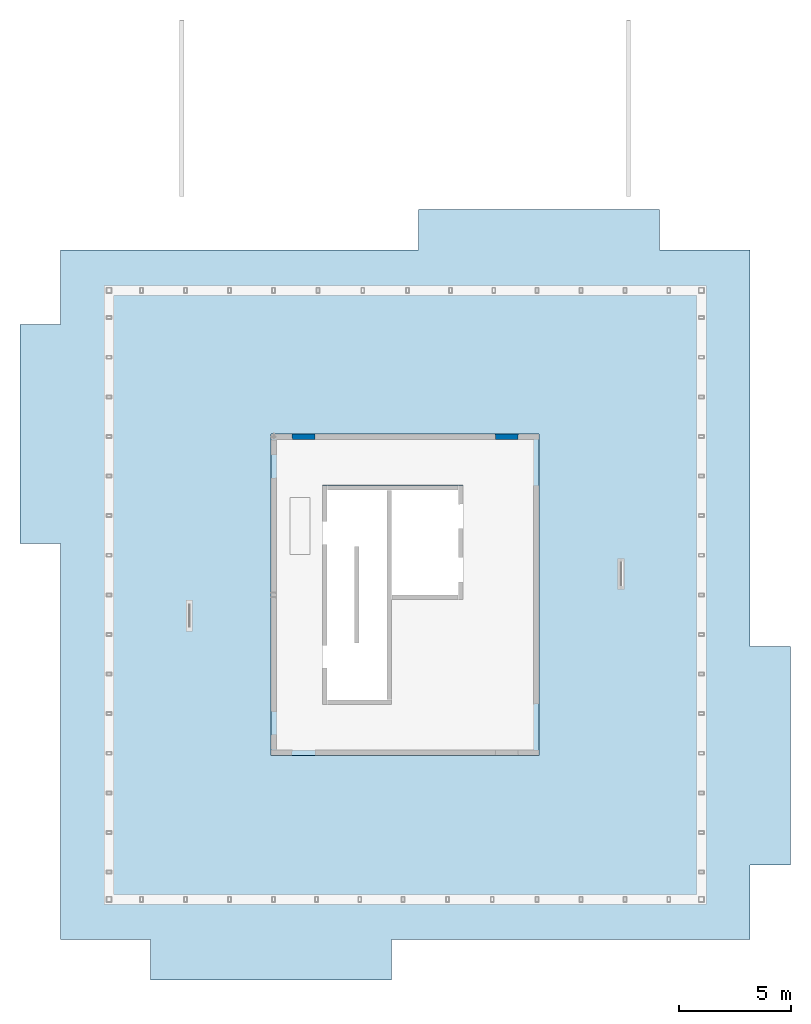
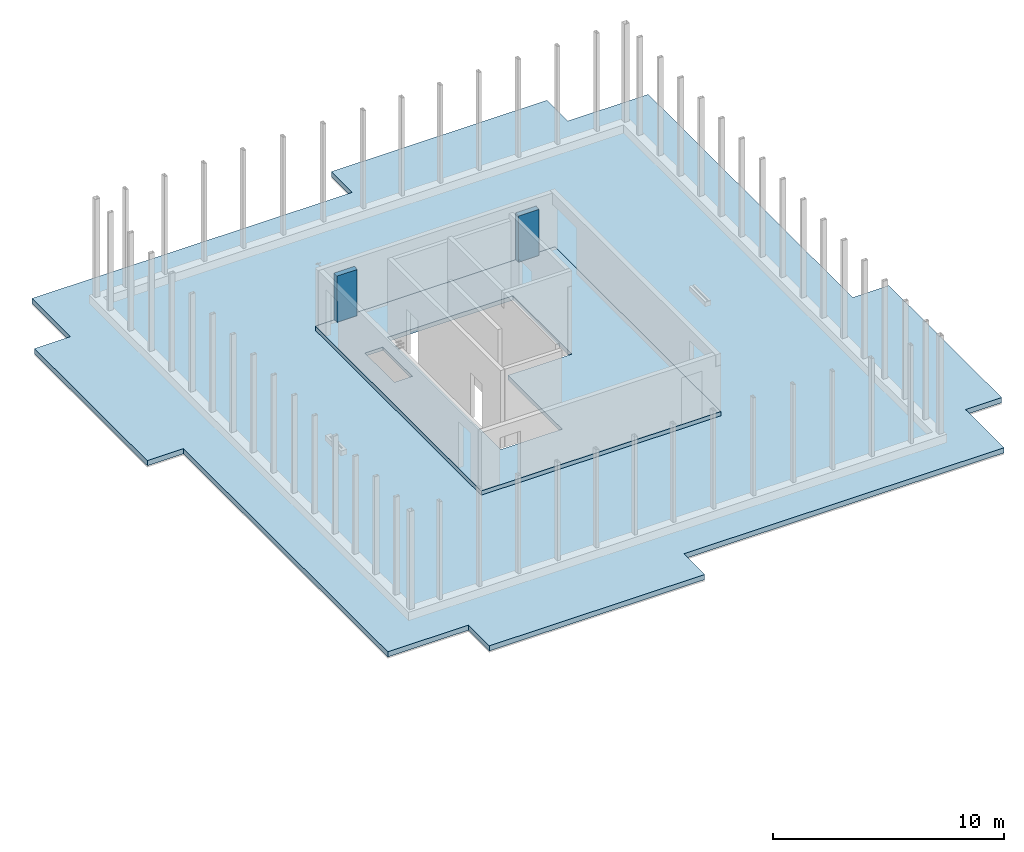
# One storey, part 8 of 9: 3 walls, 2 slabs.
"""IFC2X3 building model written with IfcOpenShell, lengths in millimetres."""

from ifc_helpers import new_model, entity, si_unit, converted_unit, derived_unit, direction, frame, origin, place, context, subcontext, project, spatial, face_set, faceted_brep, surface_model, material, type_object, element, save


model = new_model("IFC2X3")

# Units and contexts
model_context = context("Model", 3, precision=0.01, world=origin(), true_north=direction((6.12303176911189e-17, 1.0)))
body_context = subcontext(model_context, "Body", "Model", "MODEL_VIEW")
ifc_project = project(units=[si_unit("LENGTHUNIT", "METRE", prefix="MILLI"), si_unit("AREAUNIT", "SQUARE_METRE"), si_unit("VOLUMEUNIT", "CUBIC_METRE"), converted_unit("PLANEANGLEUNIT", "DEGREE", entity("IfcRatioMeasure", 0.0174532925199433), si_unit("PLANEANGLEUNIT", "RADIAN"), dimensions=[0, 0, 0, 0, 0, 0, 0]), si_unit("MASSUNIT", "GRAM", prefix="KILO"), derived_unit("MASSDENSITYUNIT", [(si_unit("MASSUNIT", "GRAM", prefix="KILO"), 1), (si_unit("LENGTHUNIT", "METRE"), -3)]), si_unit("TIMEUNIT", "SECOND"), si_unit("FREQUENCYUNIT", "HERTZ"), si_unit("THERMODYNAMICTEMPERATUREUNIT", "DEGREE_CELSIUS"), derived_unit("THERMALTRANSMITTANCEUNIT", [(si_unit("MASSUNIT", "GRAM", prefix="KILO"), 1), (si_unit("THERMODYNAMICTEMPERATUREUNIT", "KELVIN"), -1), (si_unit("TIMEUNIT", "SECOND"), -3)]), derived_unit("VOLUMETRICFLOWRATEUNIT", [(si_unit("LENGTHUNIT", "METRE"), 3), (si_unit("TIMEUNIT", "SECOND"), -1)]), si_unit("ELECTRICCURRENTUNIT", "AMPERE"), si_unit("ELECTRICVOLTAGEUNIT", "VOLT"), si_unit("POWERUNIT", "WATT"), si_unit("FORCEUNIT", "NEWTON", prefix="KILO"), si_unit("ILLUMINANCEUNIT", "LUX"), si_unit("LUMINOUSFLUXUNIT", "LUMEN"), si_unit("LUMINOUSINTENSITYUNIT", "CANDELA"), derived_unit("USERDEFINED", [(si_unit("MASSUNIT", "GRAM", prefix="KILO"), -1), (si_unit("LENGTHUNIT", "METRE"), -2), (si_unit("TIMEUNIT", "SECOND"), 3), (si_unit("LUMINOUSFLUXUNIT", "LUMEN"), 1)]), derived_unit("LINEARVELOCITYUNIT", [(si_unit("LENGTHUNIT", "METRE"), 1), (si_unit("TIMEUNIT", "SECOND"), -1)]), si_unit("PRESSUREUNIT", "PASCAL"), derived_unit("USERDEFINED", [(si_unit("LENGTHUNIT", "METRE"), -2), (si_unit("MASSUNIT", "GRAM", prefix="KILO"), 1), (si_unit("TIMEUNIT", "SECOND"), -2)])], contexts=[model_context])

# Site, building, storey
site_placement = place(None, origin())
site = spatial("IfcSite", under=ifc_project, at=site_placement, Name="Default", CompositionType="ELEMENT")
building_placement = place(site_placement, origin())
building = spatial("IfcBuilding", under=site, at=building_placement, Name="niet gebruiken", CompositionType="ELEMENT")
storey_placement = place(building_placement, frame((0.0, 0.0, 178840.0)))
storey = spatial("IfcBuildingStorey", under=building, at=storey_placement, Name="57 zevenenvijftigste verdieping", CompositionType="ELEMENT", Elevation=178840.0)

# Slabs
slab_1_placement = place(storey_placement, origin())
element("IfcSlab", 1, at=slab_1_placement, inside=storey, Name="Floor:NLRS_23.21_FL_vloer=230_gen", ObjectType="Floor:NLRS_23.21_FL_vloer=230_gen", PredefinedType="FLOOR", context=body_context, shape_type="Brep", body=[
    faceted_brep([(144330.0, 22400.0, -320.0), (138050.0, 22400.0, -320.0), (138050.0, 12600.0, -320.0), (141130.0, 12600.0, -320.0), (141130.0, 17300.0, -320.0), (144330.0, 17300.0, -320.0), (138040.0, 22410.0, -320.0), (144340.0, 22410.0, -320.0), (144340.0, 17290.0, -320.0), (141140.0, 17290.0, -320.0), (141140.0, 12590.0, -320.0), (138040.0, 12590.0, -320.0), (147750.0, 10300.0, -90.0), (147750.0, 24700.0, -90.0), (135750.0, 24700.0, -90.0), (135750.0, 10300.0, -90.0), (138050.0, 22400.0, -90.0), (144330.0, 22400.0, -90.0), (144330.0, 17300.0, -90.0), (141130.0, 17300.0, -90.0), (141130.0, 12600.0, -90.0), (138050.0, 12600.0, -90.0), (137500.0, 21855.0, -90.0), (137500.0, 19305.0, -90.0), (136600.0, 19305.0, -90.0), (136600.0, 21855.0, -90.0), (147750.0, 10300.0, -310.0), (147750.0, 24700.0, -310.0), (135750.0, 10300.0, -310.0), (135750.0, 24700.0, -310.0), (135990.0, 24460.0, -260.0), (147510.0, 24460.0, -260.0), (147510.0, 10540.0, -260.0), (135990.0, 10540.0, -260.0), (144340.0, 17290.0, -260.0), (144340.0, 22410.0, -260.0), (138040.0, 22410.0, -260.0), (138040.0, 12590.0, -260.0), (141140.0, 12590.0, -260.0), (141140.0, 17290.0, -260.0), (137500.0, 19305.0, -260.0), (137500.0, 21855.0, -260.0), (136600.0, 21855.0, -260.0), (136600.0, 19305.0, -260.0), (147510.0, 24460.0, -310.0), (147510.0, 10540.0, -310.0), (135990.0, 10540.0, -310.0), (135990.0, 24460.0, -310.0)], [[[0, 1, 2, 3, 4, 5], [6, 7, 8, 9, 10, 11]], [[12, 13, 14, 15], [16, 17, 18, 19, 20, 21], [22, 23, 24, 25]], [[13, 12, 26, 27]], [[12, 15, 28, 26]], [[15, 14, 29, 28]], [[14, 13, 27, 29]], [[1, 0, 17, 16]], [[2, 1, 16, 21]], [[3, 2, 21, 20]], [[0, 5, 18, 17]], [[4, 3, 20, 19]], [[5, 4, 19, 18]], [[30, 31, 32, 33], [34, 35, 36, 37, 38, 39], [40, 41, 42, 43]], [[32, 31, 44, 45]], [[33, 32, 45, 46]], [[30, 33, 46, 47]], [[31, 30, 47, 44]], [[36, 35, 7, 6]], [[37, 36, 6, 11]], [[38, 37, 11, 10]], [[35, 34, 8, 7]], [[39, 38, 10, 9]], [[34, 39, 9, 8]], [[27, 26, 28, 29], [45, 44, 47, 46]], [[23, 22, 41, 40]], [[22, 25, 42, 41]], [[25, 24, 43, 42]], [[24, 23, 40, 43]]], outer=[[False, True], [True, False, False], [True], [True], [True], [True], [True], [True], [True], [True], [True], [True], [True, False, False], [True], [True], [True], [True], [True], [True], [True], [True], [True], [True], [True, False], [True], [True], [True], [True]]),
])
ifc_material_1 = material(Name="NLRS_f2_beton ihwg")
slab_2_placement = place(storey_placement, origin())
element("IfcSlab", 2, at=slab_2_placement, inside=storey, material=ifc_material_1, Name="Floor:NLRS_23.21_FL_vloer d=350_gen", ObjectType="Floor:NLRS_23.21_FL_vloer d=350_gen", PredefinedType="FLOOR", context=body_context, shape_type="Brep", body=[
    faceted_brep([(147500.0, 24450.0, -660.0), (136000.0, 24450.0, -660.0), (136000.0, 10550.0, -660.0), (147500.0, 10550.0, -660.0), (135760.0, 24690.0, -660.0), (147740.0, 24690.0, -660.0), (147740.0, 10310.0, -660.0), (135760.0, 10310.0, -660.0), (157180.0, 32930.0, -310.0), (153145.0, 32930.0, -310.0), (153145.0, 34740.0, -310.0), (142355.0, 34740.0, -310.0), (142355.0, 32930.0, -310.0), (126320.0, 32930.0, -310.0), (126320.0, 29595.0, -310.0), (124510.0, 29595.0, -310.0), (124510.0, 19805.0, -310.0), (126320.0, 19805.0, -310.0), (126320.0, 2070.0, -310.0), (130355.0, 2070.0, -310.0), (130355.0, 260.0, -310.0), (141145.0, 260.0, -310.0), (141145.0, 2070.0, -310.0), (157180.0, 2070.0, -310.0), (157180.0, 5405.0, -310.0), (158990.0, 5405.0, -310.0), (158990.0, 15195.0, -310.0), (157180.0, 15195.0, -310.0), (136000.0, 24450.0, -310.0), (147500.0, 24450.0, -310.0), (147500.0, 10550.0, -310.0), (136000.0, 10550.0, -310.0), (157180.0, 32930.0, -580.0), (153145.0, 32930.0, -580.0), (157180.0, 2070.0, -580.0), (157180.0, 5405.0, -580.0), (126320.0, 2070.0, -580.0), (130355.0, 2070.0, -580.0), (126320.0, 32930.0, -580.0), (126320.0, 29595.0, -580.0), (157180.0, 15195.0, -580.0), (158990.0, 15195.0, -580.0), (158990.0, 14265.0, -580.0), (158990.0, 5405.0, -580.0), (141145.0, 2070.0, -580.0), (141145.0, 260.0, -580.0), (130355.0, 260.0, -580.0), (126320.0, 19805.0, -580.0), (124510.0, 19805.0, -580.0), (124510.0, 29595.0, -580.0), (142355.0, 32930.0, -580.0), (142355.0, 34740.0, -580.0), (146625.0, 34740.0, -580.0), (153145.0, 34740.0, -580.0), (147740.0, 10310.0, -580.0), (147740.0, 24690.0, -580.0), (135760.0, 24690.0, -580.0), (135760.0, 10310.0, -580.0)], [[[0, 1, 2, 3], [4, 5, 6, 7]], [[8, 9, 10, 11, 12, 13, 14, 15, 16, 17, 18, 19, 20, 21, 22, 23, 24, 25, 26, 27], [28, 29, 30, 31]], [[9, 8, 32, 33]], [[24, 23, 34, 35]], [[19, 18, 36, 37]], [[14, 13, 38, 39]], [[1, 0, 29, 28]], [[2, 1, 28, 31]], [[3, 2, 31, 30]], [[0, 3, 30, 29]], [[33, 32, 40, 41, 42, 43, 35, 34, 44, 45, 46, 37, 36, 47, 48, 49, 39, 38, 50, 51, 52, 53], [54, 55, 56, 57]], [[56, 55, 5, 4]], [[57, 56, 4, 7]], [[54, 57, 7, 6]], [[55, 54, 6, 5]], [[8, 27, 40, 32]], [[27, 26, 41, 40]], [[26, 25, 43, 42, 41]], [[25, 24, 35, 43]], [[23, 22, 44, 34]], [[22, 21, 45, 44]], [[21, 20, 46, 45]], [[20, 19, 37, 46]], [[18, 17, 47, 36]], [[17, 16, 48, 47]], [[16, 15, 49, 48]], [[15, 14, 39, 49]], [[13, 12, 50, 38]], [[12, 11, 51, 50]], [[11, 10, 53, 52, 51]], [[10, 9, 33, 53]]], outer=[[False, True], [True, False], [True], [True], [True], [True], [True], [True], [True], [True], [True, False], [True], [True], [True], [True], [True], [True], [True], [True], [True], [True], [True], [True], [True], [True], [True], [True], [True], [True], [True], [True]]),
])

# Walls
ifc_material_2 = material(Name="NLRS_f2_beton prefab dichtstorten")
wall_type = type_object("IfcWallType", Name="Parametric Wall:NLRS_22.21_WA_beton prefab d=250 1006x2448_gen", PredefinedType="NOTDEFINED", material=ifc_material_2)
wall_placement = place(storey_placement, frame((136685.0, 24450.0, -70.0)))
element("IfcWall", 3, at=wall_placement, inside=storey, type_object=wall_type, material=ifc_material_2, Name="Parametric Wall:NLRS_22.21_WA_beton prefab d=250 1006x2448_gen", ObjectType="Parametric Wall:NLRS_22.21_WA_beton prefab d=250 1006x2448_gen", context=body_context, shape_type="SurfaceModel", body=[
    surface_model("IfcFaceBasedSurfaceModel", [(1036.0, 250.0, 2463.0), (1036.0, 250.0, 0.0), (0.0, 250.0, 0.0), (0.0, 250.0, 2463.0), (1021.0, 0.0, 2448.0), (1021.0, 0.0, 0.0), (15.0, 0.0, 0.0), (15.0, 0.0, 2448.0)], [face_set([[[0, 1, 2, 3]], [[4, 5, 6, 7]], [[4, 5, 1, 0]], [[5, 6, 2, 1]], [[6, 2, 3, 7]], [[7, 4, 0, 3]]])]),
])
for number, where in (
    (4, (136685.0, 24450.0, -70.0)),
    (5, (145779.0, 24450.0, -70.0)),
):
    element("IfcWall", number, at=place(storey_placement, frame(where)), inside=storey, type_object=wall_type, material=ifc_material_2, Name="Parametric Wall:NLRS_22.21_WA_beton prefab d=250 1006x2448_gen", ObjectType="Parametric Wall:NLRS_22.21_WA_beton prefab d=250 1006x2448_gen", context=body_context, shape_type="Brep", body=[
        faceted_brep([(1036.0, 250.0, 2463.0), (1036.0, 250.0, 10.0), (1036.0, 250.0, 0.0), (0.0, 250.0, 0.0), (0.0, 250.0, 10.0), (0.0, 250.0, 2463.0), (1021.0, 0.0, 2448.0), (15.0, 0.0, 2448.0), (15.0, 0.0, 10.0), (15.0, 0.0, 0.0), (1021.0, 0.0, 0.0), (1021.0, 0.0, 10.0)], [[[0, 1, 2, 3, 4, 5]], [[6, 7, 8, 9, 10, 11]], [[6, 11, 10, 2, 1, 0]], [[9, 8, 7, 5, 4, 3]], [[10, 9, 3, 2]], [[7, 6, 0, 5]]]),
    ])

save(model, "model.ifc")
